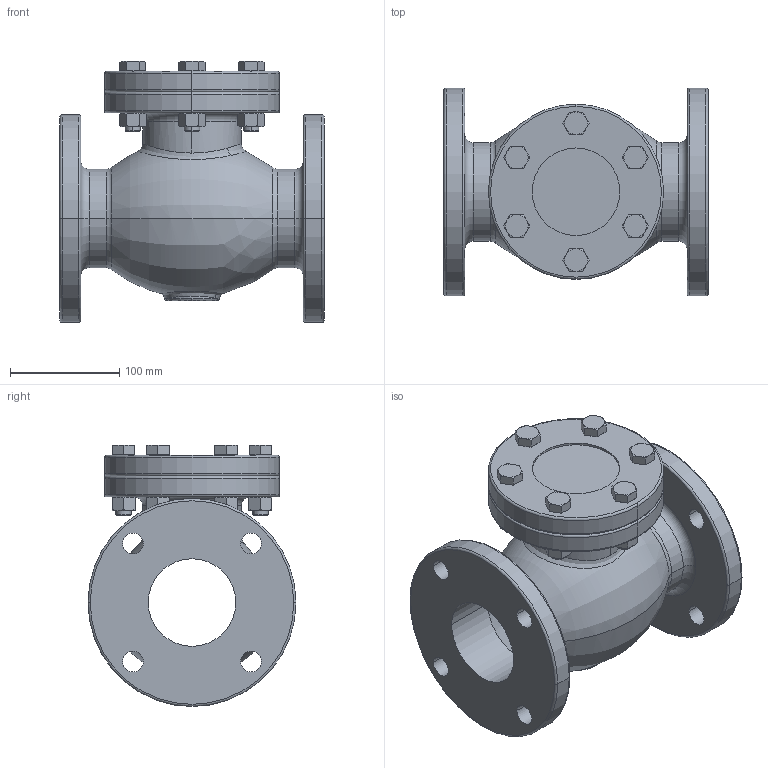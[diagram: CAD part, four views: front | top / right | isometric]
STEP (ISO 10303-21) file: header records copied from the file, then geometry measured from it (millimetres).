
FILE_DESCRIPTION(('Open CASCADE Model'),'2;1');
FILE_NAME('Open CASCADE Shape Model','2022-03-10T07:34:13',('Author'),( 'Open CASCADE'),'Open CASCADE STEP processor 7.3','Open CASCADE 7.3' ,'Unknown');
FILE_SCHEMA(('AUTOMOTIVE_DESIGN { 1 0 10303 214 1 1 1 1 }'));
Length unit declared in the file: millimetre
Products named in the file (15): Open CASCADE STEP translator 7.3 1; Open CASCADE STEP translator 7.3 1.1; Open CASCADE STEP translator 7.3 1.2; Open CASCADE STEP translator 7.3 1.3; Open CASCADE STEP translator 7.3 1.4; Open CASCADE STEP translator 7.3 1.5; Open CASCADE STEP translator 7.3 1.6; Open CASCADE STEP translator 7.3 1.7; Open CASCADE STEP translator 7.3 1.8; Open CASCADE STEP translator 7.3 1.9; Open CASCADE STEP translator 7.3 1.10; Open CASCADE STEP translator 7.3 1.11; Open CASCADE STEP translator 7.3 1.12; Open CASCADE STEP translator 7.3 1.13; Open CASCADE STEP translator 7.3 1.14
Assembly tree (14 placements, depth 2):
  Open CASCADE STEP translator 7.3 1
    Open CASCADE STEP translator 7.3 1.1
    Open CASCADE STEP translator 7.3 1.2
    Open CASCADE STEP translator 7.3 1.3
    Open CASCADE STEP translator 7.3 1.4
    Open CASCADE STEP translator 7.3 1.5
    Open CASCADE STEP translator 7.3 1.6
    Open CASCADE STEP translator 7.3 1.7
    Open CASCADE STEP translator 7.3 1.8
    Open CASCADE STEP translator 7.3 1.9
    Open CASCADE STEP translator 7.3 1.10
    Open CASCADE STEP translator 7.3 1.11
    Open CASCADE STEP translator 7.3 1.12
    Open CASCADE STEP translator 7.3 1.13
    Open CASCADE STEP translator 7.3 1.14
Bounding box: 241.3 x 190 x 238.48 mm (x, y, z)
Volume: 1967798.1 mm3; surface area: 415375.8 mm2
Topology: 14 solids, 14 shells, 391 faces, 916 edges, 566 vertices
Faces by surface type: plane 149, cone 108, cylinder 93, torus 29, bspline 6, revolution 6
Entity records: 35182 total; most frequent: CARTESIAN_POINT 17291, DIRECTION 3118, ORIENTED_EDGE 1832, PCURVE 1832, DEFINITIONAL_REPRESENTATION 1832, LINE 1404, VECTOR 1404, EDGE_CURVE 916
